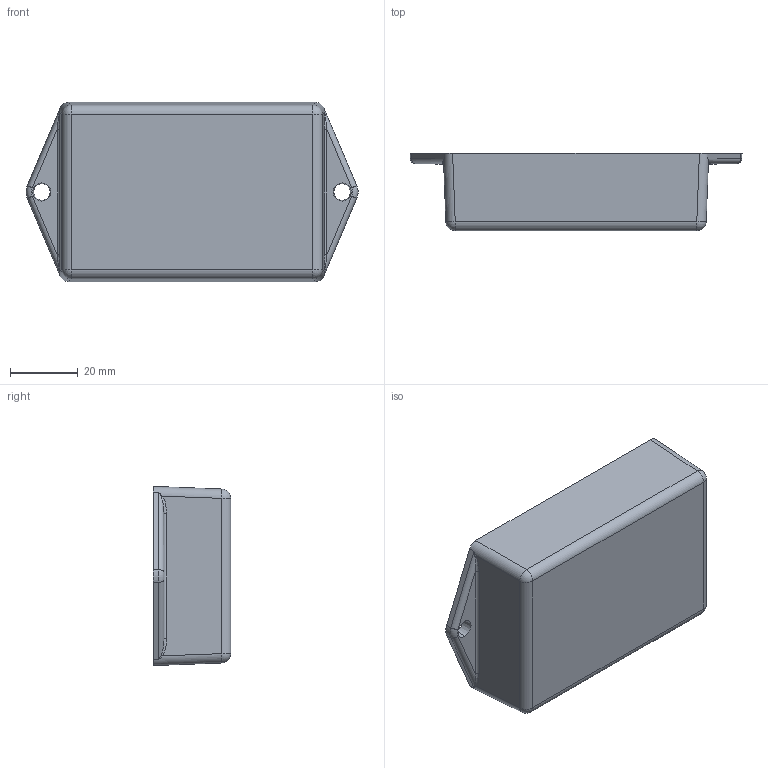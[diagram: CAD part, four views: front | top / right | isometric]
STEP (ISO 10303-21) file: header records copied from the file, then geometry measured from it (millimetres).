
FILE_DESCRIPTION (( 'STEP AP214' ), '1' );
FILE_NAME ('TS-2309FMB_ASS''Y.STEP', '2010-07-14T20:13:19', ( '' ), ( '' ), 'SwSTEP 2.0', 'SolidWorks 2010', '' );
FILE_SCHEMA (( 'AUTOMOTIVE_DESIGN' ));
Length unit declared in the file: inch
Products named in the file (5): SCREWS-LP-BR_SCREWS-LP-BR; TS-2300C_TS-2300C-MB; TS-2309B_TS-2309BF; TS-2309FMB_ASS''Y; TS-2309PCB_TS-2309A-PCB
Assembly tree (7 placements, depth 2):
  TS-2309FMB_ASS''Y
    SCREWS-LP-BR_SCREWS-LP-BR  x4
    TS-2300C_TS-2300C-MB
    TS-2309B_TS-2309BF
    TS-2309PCB_TS-2309A-PCB
Bounding box: 98.14 x 22.96 x 52.96 mm (x, y, z)
Volume: 31520 mm3; surface area: 37501.5 mm2
Topology: 7 solids, 7 shells, 482 faces, 1304 edges, 844 vertices
Faces by surface type: cylinder 227, plane 151, cone 62, bspline 28, sphere 12, torus 2
Entity records: 9845 total; most frequent: CARTESIAN_POINT 3186, ORIENTED_EDGE 1410, DIRECTION 1299, EDGE_CURVE 705, AXIS2_PLACEMENT_3D 482, VERTEX_POINT 454, VECTOR 335, LINE 335
